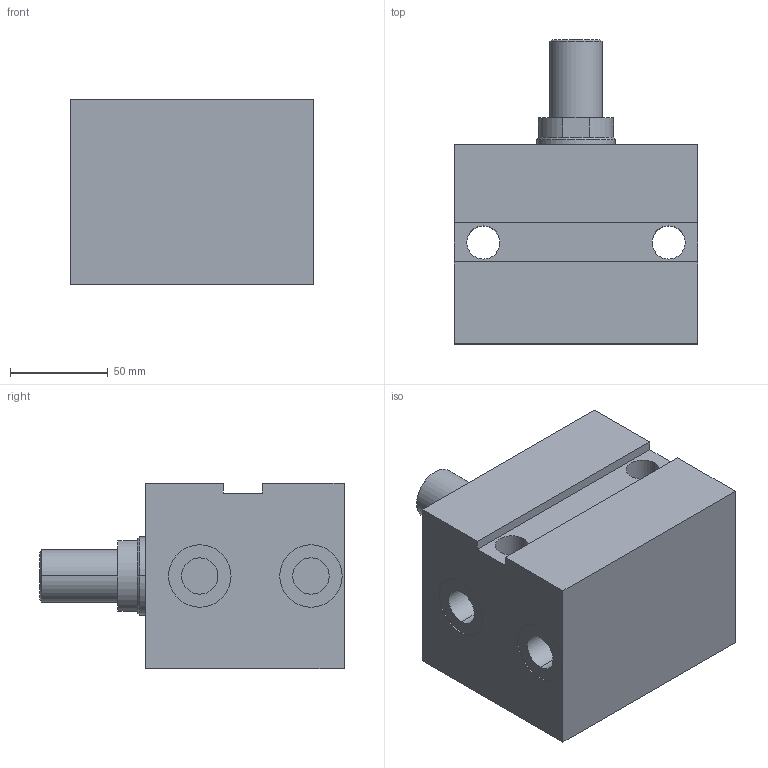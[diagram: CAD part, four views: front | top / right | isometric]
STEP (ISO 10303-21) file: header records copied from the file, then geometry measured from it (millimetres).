
FILE_DESCRIPTION (( 'STEP AP203' ), '1' );
FILE_NAME ('GERMA_Blockzylinder_602-063-030-A.STEP', '2015-07-16T13:01:56', ( '' ), ( '' ), 'SwSTEP 2.0', 'SolidWorks 2015', '' );
FILE_SCHEMA (( 'CONFIG_CONTROL_DESIGN' ));
Length unit declared in the file: millimetre
Products named in the file (3): GH-600-063_GH-602-063-030; Kolben 60x-063_Kolben DU.63-Hub30-AG; GERMA_Blockzylinder_602-063-030-A
Assembly tree (2 placements, depth 2):
  GERMA_Blockzylinder_602-063-030-A
    GH-600-063_GH-602-063-030
    Kolben 60x-063_Kolben DU.63-Hub30-AG
Bounding box: 125 x 156 x 95 mm (x, y, z)
Volume: 1130868.5 mm3; surface area: 124121.4 mm2
Topology: 2 solids, 2 shells, 69 faces, 150 edges, 93 vertices
Faces by surface type: cylinder 31, plane 26, cone 12
Entity records: 2182 total; most frequent: DIRECTION 367, CARTESIAN_POINT 313, ORIENTED_EDGE 292, AXIS2_PLACEMENT_3D 147, EDGE_CURVE 146, VERTEX_POINT 93, EDGE_LOOP 85, LINE 73
